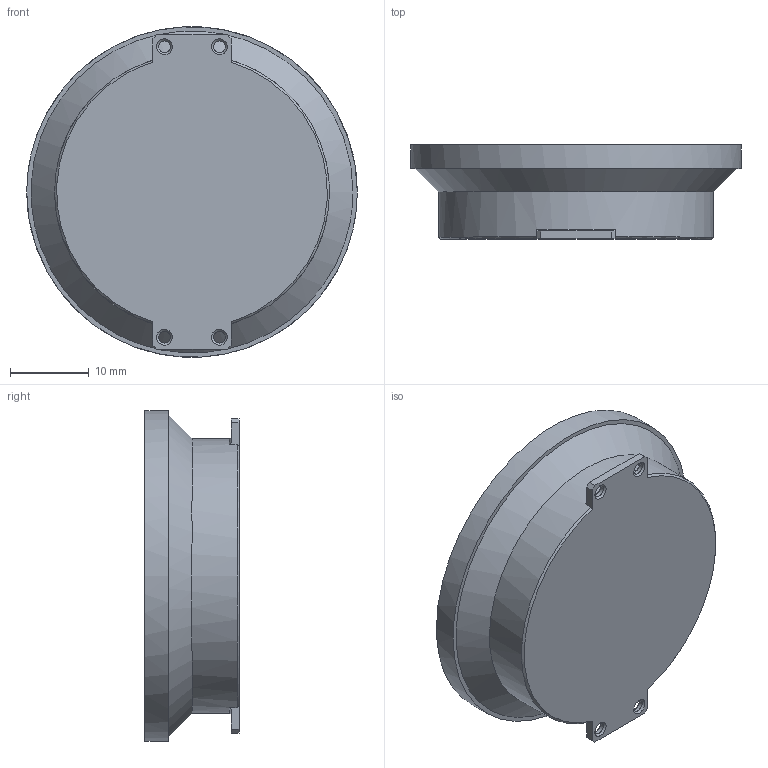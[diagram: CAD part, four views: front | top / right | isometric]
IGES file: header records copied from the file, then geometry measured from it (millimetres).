
Global section: file name: Bearing Cover v2; native system: unknown; preprocessor: unknown; author: unknown; organization: unknown; date: 20161218.122423; units: millimetre
Bounding box: 42.1 x 12 x 42.03 mm (x, y, z)
Volume: 2750.9 mm3; surface area: 5235.9 mm2
Topology: 1 solids, 1 shells, 41 faces, 111 edges, 75 vertices
Faces by surface type: bspline 41
